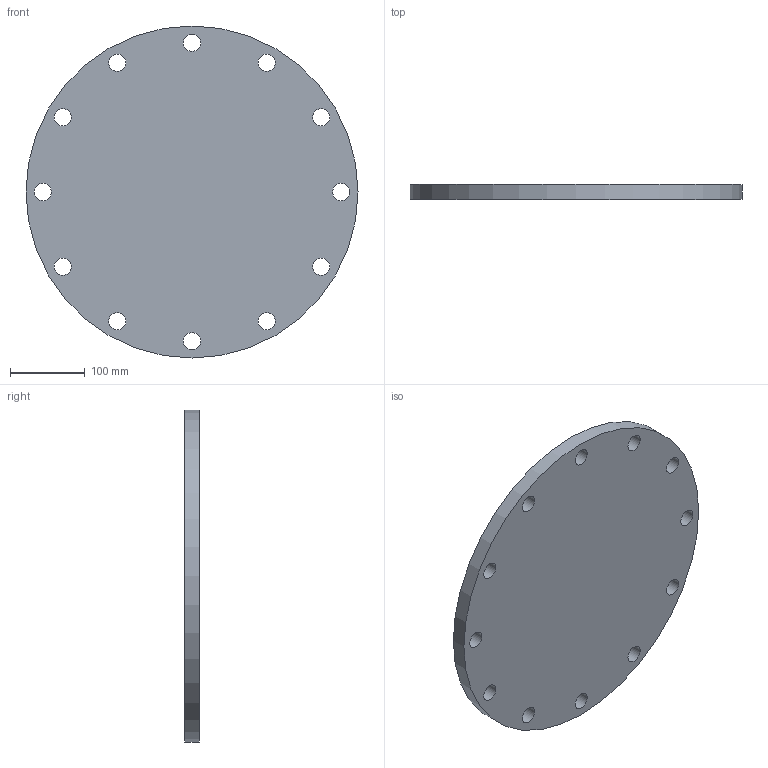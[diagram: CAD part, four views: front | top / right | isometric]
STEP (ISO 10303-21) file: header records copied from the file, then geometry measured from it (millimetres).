
FILE_DESCRIPTION(/* description */ (''),/* implementation_level */ '2;1');
FILE_NAME(/* name */ 'Z:\Geberit\Export\NewStep\372748.stp',/* time_stamp */ '2014-04-02T08:07:16+02:00',/* author */ ('nelson'),/* organization */ (''),/* preprocessor_version */ 'ST-DEVELOPER v15.2',/* originating_system */ 'Autodesk Inventor 2014',/* authorisation */ '');
FILE_SCHEMA (('AUTOMOTIVE_DESIGN { 1 0 10303 214 3 1 1 }'));
Length unit declared in the file: millimetre
Products named in the file (1): 372748
Bounding box: 445 x 20 x 445 mm (x, y, z)
Volume: 3010855.3 mm3; surface area: 346387.3 mm2
Topology: 1 solids, 1 shells, 15 faces, 39 edges, 26 vertices
Faces by surface type: cylinder 13, plane 2
Full cylindrical faces by diameter (mm): 23 x12, 445 x1
Entity records: 483 total; most frequent: DIRECTION 84, CARTESIAN_POINT 68, EDGE_LOOP 52, ORIENTED_EDGE 52, AXIS2_PLACEMENT_3D 42, FACE_BOUND 39, CIRCLE 26, VERTEX_POINT 26
